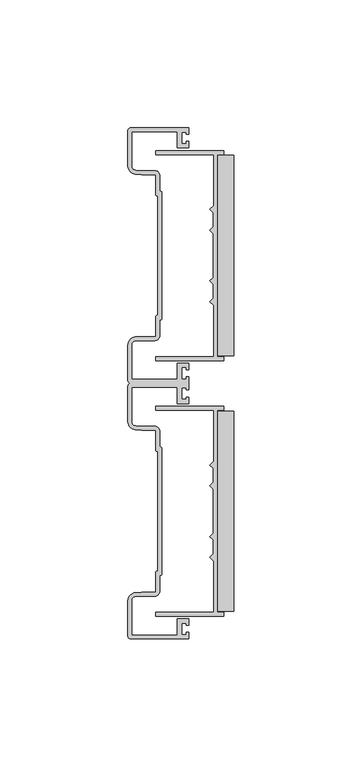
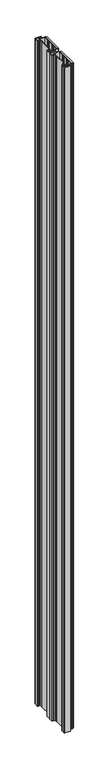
"""IFC4 building model written with IfcOpenShell, lengths in millimetres: proxy geometry, Connection-Teknion-FHCJW-Adjustable_Wal_Start-R2022 : Double Wall Starts."""

from ifc_helpers import new_model, si_unit, frame, origin, origin_with_axes, place, context, project, spatial, polyline, circle_curve, outline, extrude, faceted_brep, source, transform, mapped, element, save
from ifc_brep_helpers import plane_surface, cylinder_surface, revolved_surface, advanced_brep


def specialty_equipment_c0fda36b(model_context):
    return source(origin(), model_context, "Body", "SolidModel", [
        faceted_brep([(13.6393292, 91.0653535, 2743.2), (-13.0348006, 91.0653535, 2743.2), (-13.0348006, 89.5413459, 2743.2), (9.5712006, 89.5413459, 2743.2), (9.5712006, 69.5324019, 2743.2), (8.1107021, 68.0718984, 2743.2), (9.4442006, 66.7384, 2743.2), (9.4442006, 61.2774007, 2743.2), (8.1106995, 59.9438997, 2743.2), (9.4442006, 58.6103987, 2743.2), (9.4442006, 41.4021013, 2743.2), (8.1106995, 40.0686003, 2743.2), (9.4442006, 38.7350993, 2743.2), (9.4442006, 33.2741, 2743.2), (8.1107021, 31.9406016, 2743.2), (9.5712006, 30.4800981, 2743.2), (9.5712006, 10.4711541, 2743.2), (-13.0348006, 10.4711541, 2743.2), (-13.0348006, 8.9471465, 2743.2), (13.6393292, 8.9471465, 2743.2), (13.6393292, 10.4711541, 2743.2), (11.0952006, 10.4711541, 2743.2), (11.0952006, 89.5413459, 2743.2), (13.6393292, 89.5413459, 2743.2), (13.6393292, 91.0653535, 0.0), (13.6393292, 89.5413459, 0.0), (11.0952006, 89.5413459, 0.0), (11.0952006, 10.4711541, 0.0), (13.6393292, 10.4711541, 0.0), (13.6393292, 8.9471465, 0.0), (-13.0348006, 8.9471465, 0.0), (-13.0348006, 10.4711541, 0.0), (9.5712006, 10.4711541, 0.0), (9.5712006, 30.4800981, 0.0), (8.1107021, 31.9406016, 0.0), (9.4442006, 33.2741, 0.0), (9.4442006, 38.7350993, 0.0), (8.1106995, 40.0686003, 0.0), (9.4442006, 41.4021013, 0.0), (9.4442006, 58.6103987, 0.0), (8.1106995, 59.9438997, 0.0), (9.4442006, 61.2774007, 0.0), (9.4442006, 66.7384, 0.0), (8.1107021, 68.0718984, 0.0), (9.5712006, 69.5324019, 0.0), (9.5712006, 89.5413459, 0.0), (-13.0348006, 89.5413459, 0.0), (-13.0348006, 91.0653535, 0.0)], [[[0, 1, 2, 3, 4, 5, 6, 7, 8, 9, 10, 11, 12, 13, 14, 15, 16, 17, 18, 19, 20, 21, 22, 23]], [[24, 25, 26, 27, 28, 29, 30, 31, 32, 33, 34, 35, 36, 37, 38, 39, 40, 41, 42, 43, 44, 45, 46, 47]], [[23, 22, 26, 25]], [[0, 23, 25, 24]], [[1, 0, 24, 47]], [[2, 1, 47, 46]], [[3, 2, 46, 45]], [[4, 3, 45, 44]], [[5, 4, 44, 43]], [[6, 5, 43, 42]], [[7, 6, 42, 41]], [[8, 7, 41, 40]], [[9, 8, 40, 39]], [[10, 9, 39, 38]], [[11, 10, 38, 37]], [[12, 11, 37, 36]], [[13, 12, 36, 35]], [[14, 13, 35, 34]], [[15, 14, 34, 33]], [[16, 15, 33, 32]], [[17, 16, 32, 31]], [[18, 17, 31, 30]], [[19, 18, 30, 29]], [[20, 19, 29, 28]], [[21, 20, 28, 27]], [[22, 21, 27, 26]]]),
        advanced_brep(
        [(-22.7330004, 100.0125, 2743.2), (-24.0029992, 98.7425012, 2743.2), (-24.0029992, 85.0231533, 2743.2), (-20.9941667, 81.8524984, 2743.2), (-18.5165995, 81.7243994, 2743.2), (-13.0047993, 81.7243994, 2743.2), (-13.0047993, 73.8884996, 2743.2), (-12.2428, 73.5074999, 2743.2), (-12.2428, 26.5050001, 2743.2), (-13.0047993, 26.1240004, 2743.2), (-13.0047993, 18.2881006, 2743.2), (-18.5165995, 18.2881006, 2743.2), (-20.9941667, 18.1600016, 2743.2), (-24.0029992, 14.9893467, 2743.2), (-24.0029992, 1.2699988, 2743.2), (-22.7330004, 0.0, 2743.2), (-24.0029992, -1.2699988, 2743.2), (-24.0029992, -14.9893467, 2743.2), (-20.9941667, -18.1600016, 2743.2), (-18.5165995, -18.2881006, 2743.2), (-13.0047993, -18.2881006, 2743.2), (-13.0047993, -26.1240004, 2743.2), (-12.2428, -26.5050001, 2743.2), (-12.2428, -73.5074999, 2743.2), (-13.0047993, -73.8884996, 2743.2), (-13.0047993, -81.7243994, 2743.2), (-18.5165995, -81.7243994, 2743.2), (-20.9941667, -81.8524984, 2743.2), (-24.0029992, -85.0231533, 2743.2), (-24.0029992, -98.7425012, 2743.2), (-22.7330004, -100.0125, 2743.2), (-0.1904992, -100.0125, 2743.2), (-0.1904992, -97.4725024, 2743.2), (-1.1647474, -97.4725024, 2743.2), (-1.1647474, -98.3615016, 2743.2), (-2.9845, -98.3615016, 2743.2), (-2.9845, -93.7929699, 2743.2), (-1.1647474, -93.7929699, 2743.2), (-1.1647474, -94.681969, 2743.2), (-0.1904992, -94.681969, 2743.2), (-0.1904992, -92.1384984, 2743.2), (-4.6354995, -92.1384984, 2743.2), (-4.6354995, -98.4885015, 2743.2), (-22.4790007, -98.4885015, 2743.2), (-22.4790007, -85.0231437, 2743.2), (-20.9144069, -83.3744076, 2743.2), (-18.5099479, -83.2483979, 2743.2), (-13.3857989, -83.2483979, 2743.2), (-11.4807988, -81.3433978, 2743.2), (-11.4807985, -75.0314985, 2743.2), (-10.7187992, -74.6504988, 2743.2), (-10.7187992, -25.3620012, 2743.2), (-11.4807985, -24.9810015, 2743.2), (-11.4807985, -18.6691022, 2743.2), (-13.3857989, -16.7641021, 2743.2), (-18.5099479, -16.7641021, 2743.2), (-20.9144069, -16.6380924, 2743.2), (-22.4790007, -14.9893563, 2743.2), (-22.4790007, -1.5239985, 2743.2), (-4.6354995, -1.5239985, 2743.2), (-4.6354995, -7.8740016, 2743.2), (-0.1904992, -7.8740016, 2743.2), (-0.1904992, -5.330531, 2743.2), (-1.1647474, -5.330531, 2743.2), (-1.1647474, -6.2195301, 2743.2), (-2.9845, -6.2195301, 2743.2), (-2.9845, -1.6509984, 2743.2), (-1.1647474, -1.6509984, 2743.2), (-1.1647474, -2.5399976, 2743.2), (-0.1904992, -2.5399976, 2743.2), (-0.1904992, 2.5399976, 2743.2), (-1.1647474, 2.5399976, 2743.2), (-1.1647474, 1.6509984, 2743.2), (-2.9845, 1.6509984, 2743.2), (-2.9845, 6.2195301, 2743.2), (-1.1647474, 6.2195301, 2743.2), (-1.1647474, 5.330531, 2743.2), (-0.1904992, 5.330531, 2743.2), (-0.1904992, 7.8740016, 2743.2), (-4.6354995, 7.8740016, 2743.2), (-4.6354995, 1.5239985, 2743.2), (-22.4790007, 1.5239985, 2743.2), (-22.4790007, 14.9893563, 2743.2), (-20.9144069, 16.6380924, 2743.2), (-18.5099479, 16.7641021, 2743.2), (-13.3857989, 16.7641021, 2743.2), (-11.4807988, 18.6691022, 2743.2), (-11.4807985, 24.9810015, 2743.2), (-10.7187992, 25.3620012, 2743.2), (-10.7187992, 74.6504988, 2743.2), (-11.4807985, 75.0314985, 2743.2), (-11.4807985, 81.3433978, 2743.2), (-13.3857989, 83.2483979, 2743.2), (-18.5099479, 83.2483979, 2743.2), (-20.9144069, 83.3744076, 2743.2), (-22.4790007, 85.0231437, 2743.2), (-22.4790007, 98.4885015, 2743.2), (-4.6354995, 98.4885015, 2743.2), (-4.6354995, 92.1384984, 2743.2), (-0.1904992, 92.1384984, 2743.2), (-0.1904992, 94.681969, 2743.2), (-1.1647474, 94.681969, 2743.2), (-1.1647474, 93.7929699, 2743.2), (-2.9845, 93.7929699, 2743.2), (-2.9845, 98.3615016, 2743.2), (-1.1647474, 98.3615016, 2743.2), (-1.1647474, 97.4725024, 2743.2), (-0.1904992, 97.4725024, 2743.2), (-0.1904992, 100.0125, 2743.2), (-22.7330004, 100.0125, 0.0), (-0.1904992, 100.0125, 0.0), (-0.1904992, 97.4725024, 0.0), (-1.1647474, 97.4725024, 0.0), (-1.1647474, 98.3615016, 0.0), (-2.9845, 98.3615016, 0.0), (-2.9845, 93.7929699, 0.0), (-1.1647474, 93.7929699, 0.0), (-1.1647474, 94.681969, 0.0), (-0.1904992, 94.681969, 0.0), (-0.1904992, 92.1384984, 0.0), (-4.6354995, 92.1384984, 0.0), (-4.6354995, 98.4885015, 0.0), (-22.4790007, 98.4885015, 0.0), (-22.4790007, 85.0231437, 0.0), (-20.9144069, 83.3744076, 0.0), (-18.5099479, 83.2483979, 0.0), (-13.3857989, 83.2483979, 0.0), (-11.4807988, 81.3433978, 0.0), (-11.4807985, 75.0314985, 0.0), (-10.7187992, 74.6504988, 0.0), (-10.7187992, 25.3620012, 0.0), (-11.4807985, 24.9810015, 0.0), (-11.4807985, 18.6691022, 0.0), (-13.3857989, 16.7641021, 0.0), (-18.5099479, 16.7641021, 0.0), (-20.9144069, 16.6380924, 0.0), (-22.4790007, 14.9893563, 0.0), (-22.4790007, 1.5239985, 0.0), (-4.6354995, 1.5239985, 0.0), (-4.6354995, 7.8740016, 0.0), (-0.1904992, 7.8740016, 0.0), (-0.1904992, 5.330531, 0.0), (-1.1647474, 5.330531, 0.0), (-1.1647474, 6.2195301, 0.0), (-2.9845, 6.2195301, 0.0), (-2.9845, 1.6509984, 0.0), (-1.1647474, 1.6509984, 0.0), (-1.1647474, 2.5399976, 0.0), (-0.1904992, 2.5399976, 0.0), (-0.1904992, -2.5399976, 0.0), (-1.1647474, -2.5399976, 0.0), (-1.1647474, -1.6509984, 0.0), (-2.9845, -1.6509984, 0.0), (-2.9845, -6.2195301, 0.0), (-1.1647474, -6.2195301, 0.0), (-1.1647474, -5.330531, 0.0), (-0.1904992, -5.330531, 0.0), (-0.1904992, -7.8740016, 0.0), (-4.6354995, -7.8740016, 0.0), (-4.6354995, -1.5239985, 0.0), (-22.4790007, -1.5239985, 0.0), (-22.4790007, -14.9893563, 0.0), (-20.9144069, -16.6380924, 0.0), (-18.5099479, -16.7641021, 0.0), (-13.3857989, -16.7641021, 0.0), (-11.4807988, -18.6691022, 0.0), (-11.4807985, -24.9810015, 0.0), (-10.7187992, -25.3620012, 0.0), (-10.7187992, -74.6504988, 0.0), (-11.4807985, -75.0314985, 0.0), (-11.4807985, -81.3433978, 0.0), (-13.3857989, -83.2483979, 0.0), (-18.5099479, -83.2483979, 0.0), (-20.9144069, -83.3744076, 0.0), (-22.4790007, -85.0231437, 0.0), (-22.4790007, -98.4885015, 0.0), (-4.6354995, -98.4885015, 0.0), (-4.6354995, -92.1384984, 0.0), (-0.1904992, -92.1384984, 0.0), (-0.1904992, -94.681969, 0.0), (-1.1647474, -94.681969, 0.0), (-1.1647474, -93.7929699, 0.0), (-2.9845, -93.7929699, 0.0), (-2.9845, -98.3615016, 0.0), (-1.1647474, -98.3615016, 0.0), (-1.1647474, -97.4725024, 0.0), (-0.1904992, -97.4725024, 0.0), (-0.1904992, -100.0125, 0.0), (-22.7330004, -100.0125, 0.0), (-24.0029992, -98.7425012, 0.0), (-24.0029992, -85.0231533, 0.0), (-20.9941667, -81.8524984, 0.0), (-18.5165995, -81.7243994, 0.0), (-13.0047993, -81.7243994, 0.0), (-13.0047993, -73.8884996, 0.0), (-12.2428, -73.5074999, 0.0), (-12.2428, -26.5050001, 0.0), (-13.0047993, -26.1240004, 0.0), (-13.0047993, -18.2881006, 0.0), (-18.5165995, -18.2881006, 0.0), (-20.9941667, -18.1600016, 0.0), (-24.0029992, -14.9893467, 0.0), (-24.0029992, -1.2699988, 0.0), (-22.7330004, 0.0, 0.0), (-24.0029992, 1.2699988, 0.0), (-24.0029992, 14.9893467, 0.0), (-20.9941667, 18.1600016, 0.0), (-18.5165995, 18.2881006, 0.0), (-13.0047993, 18.2881006, 0.0), (-13.0047993, 26.1240004, 0.0), (-12.2428, 26.5050001, 0.0), (-12.2428, 73.5074999, 0.0), (-13.0047993, 73.8884996, 0.0), (-13.0047993, 81.7243994, 0.0), (-18.5165995, 81.7243994, 0.0), (-20.9941667, 81.8524984, 0.0), (-24.0029992, 85.0231533, 0.0), (-24.0029992, 98.7425012, 0.0)],
        [
            (0, 1, circle_curve(frame((-22.7330004, 98.7425012, 2743.2), z_axis=(0.0, 0.0, 1.0), x_axis=(0.0, -1.0, 0.0)), 1.2699988)),
            (1, 2),
            (2, 3, circle_curve(frame((-20.721501, 85.12421, 2743.2), z_axis=(0.0, 0.0, 1.0), x_axis=(0.0, -1.0, 0.0)), 3.283054)),
            (3, 4),
            (4, 5),
            (5, 6),
            (6, 7, circle_curve(frame((-12.5285497, 73.8884996, 2743.2), z_axis=(0.0, 0.0, 1.0), x_axis=(0.0, -1.0, 0.0)), 0.4762495)),
            (7, 8),
            (8, 9, circle_curve(frame((-12.5285497, 26.1240004, 2743.2), z_axis=(0.0, 0.0, 1.0), x_axis=(0.0, -1.0, 0.0)), 0.4762495)),
            (9, 10),
            (10, 11),
            (11, 12),
            (12, 13, circle_curve(frame((-20.721501, 14.88829, 2743.2), z_axis=(0.0, 0.0, 1.0), x_axis=(0.0, -1.0, 0.0)), 3.283054)),
            (13, 14),
            (14, 15, circle_curve(frame((-22.7330004, 1.2699988, 2743.2), z_axis=(0.0, 0.0, 1.0), x_axis=(0.0, -1.0, 0.0)), 1.2699988)),
            (15, 16, circle_curve(frame((-22.7330004, -1.2699988, 2743.2), z_axis=(0.0, 0.0, 1.0), x_axis=(0.0, -1.0, 0.0)), 1.2699988)),
            (16, 17),
            (17, 18, circle_curve(frame((-20.721501, -14.88829, 2743.2), z_axis=(0.0, 0.0, 1.0), x_axis=(0.0, -1.0, 0.0)), 3.283054)),
            (18, 19),
            (19, 20),
            (20, 21),
            (21, 22, circle_curve(frame((-12.5285497, -26.1240004, 2743.2), z_axis=(0.0, 0.0, 1.0), x_axis=(0.0, -1.0, 0.0)), 0.4762495)),
            (22, 23),
            (23, 24, circle_curve(frame((-12.5285497, -73.8884996, 2743.2), z_axis=(0.0, 0.0, 1.0), x_axis=(0.0, -1.0, 0.0)), 0.4762495)),
            (24, 25),
            (25, 26),
            (26, 27),
            (27, 28, circle_curve(frame((-20.721501, -85.12421, 2743.2), z_axis=(0.0, 0.0, 1.0), x_axis=(0.0, -1.0, 0.0)), 3.283054)),
            (28, 29),
            (29, 30, circle_curve(frame((-22.7330004, -98.7425012, 2743.2), z_axis=(0.0, 0.0, 1.0), x_axis=(0.0, -1.0, 0.0)), 1.2699988)),
            (30, 31),
            (31, 32),
            (32, 33),
            (33, 34),
            (34, 35),
            (35, 36),
            (36, 37),
            (37, 38),
            (38, 39),
            (39, 40),
            (40, 41),
            (41, 42),
            (42, 43),
            (43, 44),
            (44, 45, circle_curve(frame((-20.8280021, -85.0231437, 2743.2), z_axis=(0.0, 0.0, -1.0), x_axis=(0.0, -1.0, 0.0)), 1.6509986)),
            (45, 46),
            (46, 47),
            (47, 48, circle_curve(frame((-13.3857989, -81.3433978, 2743.2), z_axis=(0.0, 0.0, 1.0), x_axis=(0.0, -1.0, 0.0)), 1.9050001)),
            (48, 49),
            (49, 50, circle_curve(frame((-11.1950487, -74.6504988, 2743.2), z_axis=(0.0, 0.0, 1.0), x_axis=(0.0, -1.0, 0.0)), 0.4762495)),
            (50, 51),
            (51, 52, circle_curve(frame((-11.1950487, -25.3620012, 2743.2), z_axis=(0.0, 0.0, 1.0), x_axis=(0.0, -1.0, 0.0)), 0.4762495)),
            (52, 53),
            (53, 54, circle_curve(frame((-13.3857989, -18.6691022, 2743.2), z_axis=(0.0, 0.0, 1.0), x_axis=(0.0, -1.0, 0.0)), 1.9050001)),
            (54, 55),
            (55, 56),
            (56, 57, circle_curve(frame((-20.8280021, -14.9893563, 2743.2), z_axis=(0.0, 0.0, -1.0), x_axis=(0.0, -1.0, 0.0)), 1.6509986)),
            (57, 58),
            (58, 59),
            (59, 60),
            (60, 61),
            (61, 62),
            (62, 63),
            (63, 64),
            (64, 65),
            (65, 66),
            (66, 67),
            (67, 68),
            (68, 69),
            (69, 70),
            (70, 71),
            (71, 72),
            (72, 73),
            (73, 74),
            (74, 75),
            (75, 76),
            (76, 77),
            (77, 78),
            (78, 79),
            (79, 80),
            (80, 81),
            (81, 82),
            (82, 83, circle_curve(frame((-20.8280021, 14.9893563, 2743.2), z_axis=(0.0, 0.0, -1.0), x_axis=(0.0, -1.0, 0.0)), 1.6509986)),
            (83, 84),
            (84, 85),
            (85, 86, circle_curve(frame((-13.3857989, 18.6691022, 2743.2), z_axis=(0.0, 0.0, 1.0), x_axis=(0.0, -1.0, 0.0)), 1.9050001)),
            (86, 87),
            (87, 88, circle_curve(frame((-11.1950487, 25.3620012, 2743.2), z_axis=(0.0, 0.0, 1.0), x_axis=(0.0, -1.0, 0.0)), 0.4762495)),
            (88, 89),
            (89, 90, circle_curve(frame((-11.1950487, 74.6504988, 2743.2), z_axis=(0.0, 0.0, 1.0), x_axis=(0.0, -1.0, 0.0)), 0.4762495)),
            (90, 91),
            (91, 92, circle_curve(frame((-13.3857989, 81.3433978, 2743.2), z_axis=(0.0, 0.0, 1.0), x_axis=(0.0, -1.0, 0.0)), 1.9050001)),
            (92, 93),
            (93, 94),
            (94, 95, circle_curve(frame((-20.8280021, 85.0231437, 2743.2), z_axis=(0.0, 0.0, -1.0), x_axis=(0.0, -1.0, 0.0)), 1.6509986)),
            (95, 96),
            (96, 97),
            (97, 98),
            (98, 99),
            (99, 100),
            (100, 101),
            (101, 102),
            (102, 103),
            (103, 104),
            (104, 105),
            (105, 106),
            (106, 107),
            (107, 108),
            (108, 0),
            (109, 110),
            (110, 111),
            (111, 112),
            (112, 113),
            (113, 114),
            (114, 115),
            (115, 116),
            (116, 117),
            (117, 118),
            (118, 119),
            (119, 120),
            (120, 121),
            (121, 122),
            (122, 123),
            (123, 124, circle_curve(frame((-20.8280021, 85.0231437, 0.0), z_axis=(0.0, 0.0, 1.0), x_axis=(0.0, -1.0, 0.0)), 1.6509986)),
            (124, 125),
            (125, 126),
            (126, 127, circle_curve(frame((-13.3857989, 81.3433978, 0.0), z_axis=(0.0, 0.0, -1.0), x_axis=(0.0, -1.0, 0.0)), 1.9050001)),
            (127, 128),
            (128, 129, circle_curve(frame((-11.1950487, 74.6504988, 0.0), z_axis=(0.0, 0.0, -1.0), x_axis=(0.0, -1.0, 0.0)), 0.4762495)),
            (129, 130),
            (130, 131, circle_curve(frame((-11.1950487, 25.3620012, 0.0), z_axis=(0.0, 0.0, -1.0), x_axis=(0.0, -1.0, 0.0)), 0.4762495)),
            (131, 132),
            (132, 133, circle_curve(frame((-13.3857989, 18.6691022, 0.0), z_axis=(0.0, 0.0, -1.0), x_axis=(0.0, -1.0, 0.0)), 1.9050001)),
            (133, 134),
            (134, 135),
            (135, 136, circle_curve(frame((-20.8280021, 14.9893563, 0.0), z_axis=(0.0, 0.0, 1.0), x_axis=(0.0, -1.0, 0.0)), 1.6509986)),
            (136, 137),
            (137, 138),
            (138, 139),
            (139, 140),
            (140, 141),
            (141, 142),
            (142, 143),
            (143, 144),
            (144, 145),
            (145, 146),
            (146, 147),
            (147, 148),
            (148, 149),
            (149, 150),
            (150, 151),
            (151, 152),
            (152, 153),
            (153, 154),
            (154, 155),
            (155, 156),
            (156, 157),
            (157, 158),
            (158, 159),
            (159, 160),
            (160, 161),
            (161, 162, circle_curve(frame((-20.8280021, -14.9893563, 0.0), z_axis=(0.0, 0.0, 1.0), x_axis=(0.0, -1.0, 0.0)), 1.6509986)),
            (162, 163),
            (163, 164),
            (164, 165, circle_curve(frame((-13.3857989, -18.6691022, 0.0), z_axis=(0.0, 0.0, -1.0), x_axis=(0.0, -1.0, 0.0)), 1.9050001)),
            (165, 166),
            (166, 167, circle_curve(frame((-11.1950487, -25.3620012, 0.0), z_axis=(0.0, 0.0, -1.0), x_axis=(0.0, -1.0, 0.0)), 0.4762495)),
            (167, 168),
            (168, 169, circle_curve(frame((-11.1950487, -74.6504988, 0.0), z_axis=(0.0, 0.0, -1.0), x_axis=(0.0, -1.0, 0.0)), 0.4762495)),
            (169, 170),
            (170, 171, circle_curve(frame((-13.3857989, -81.3433978, 0.0), z_axis=(0.0, 0.0, -1.0), x_axis=(0.0, -1.0, 0.0)), 1.9050001)),
            (171, 172),
            (172, 173),
            (173, 174, circle_curve(frame((-20.8280021, -85.0231437, 0.0), z_axis=(0.0, 0.0, 1.0), x_axis=(0.0, -1.0, 0.0)), 1.6509986)),
            (174, 175),
            (175, 176),
            (176, 177),
            (177, 178),
            (178, 179),
            (179, 180),
            (180, 181),
            (181, 182),
            (182, 183),
            (183, 184),
            (184, 185),
            (185, 186),
            (186, 187),
            (187, 188),
            (188, 189, circle_curve(frame((-22.7330004, -98.7425012, 0.0), z_axis=(0.0, 0.0, -1.0), x_axis=(0.0, -1.0, 0.0)), 1.2699988)),
            (189, 190),
            (190, 191, circle_curve(frame((-20.721501, -85.12421, 0.0), z_axis=(0.0, 0.0, -1.0), x_axis=(0.0, -1.0, 0.0)), 3.283054)),
            (191, 192),
            (192, 193),
            (193, 194),
            (194, 195, circle_curve(frame((-12.5285497, -73.8884996, 0.0), z_axis=(0.0, 0.0, -1.0), x_axis=(0.0, -1.0, 0.0)), 0.4762495)),
            (195, 196),
            (196, 197, circle_curve(frame((-12.5285497, -26.1240004, 0.0), z_axis=(0.0, 0.0, -1.0), x_axis=(0.0, -1.0, 0.0)), 0.4762495)),
            (197, 198),
            (198, 199),
            (199, 200),
            (200, 201, circle_curve(frame((-20.721501, -14.88829, 0.0), z_axis=(0.0, 0.0, -1.0), x_axis=(0.0, -1.0, 0.0)), 3.283054)),
            (201, 202),
            (202, 203, circle_curve(frame((-22.7330004, -1.2699988, 0.0), z_axis=(0.0, 0.0, -1.0), x_axis=(0.0, -1.0, 0.0)), 1.2699988)),
            (203, 204, circle_curve(frame((-22.7330004, 1.2699988, 0.0), z_axis=(0.0, 0.0, -1.0), x_axis=(0.0, -1.0, 0.0)), 1.2699988)),
            (204, 205),
            (205, 206, circle_curve(frame((-20.721501, 14.88829, 0.0), z_axis=(0.0, 0.0, -1.0), x_axis=(0.0, -1.0, 0.0)), 3.283054)),
            (206, 207),
            (207, 208),
            (208, 209),
            (209, 210, circle_curve(frame((-12.5285497, 26.1240004, 0.0), z_axis=(0.0, 0.0, -1.0), x_axis=(0.0, -1.0, 0.0)), 0.4762495)),
            (210, 211),
            (211, 212, circle_curve(frame((-12.5285497, 73.8884996, 0.0), z_axis=(0.0, 0.0, -1.0), x_axis=(0.0, -1.0, 0.0)), 0.4762495)),
            (212, 213),
            (213, 214),
            (214, 215),
            (215, 216, circle_curve(frame((-20.721501, 85.12421, 0.0), z_axis=(0.0, 0.0, -1.0), x_axis=(0.0, -1.0, 0.0)), 3.283054)),
            (216, 217),
            (217, 109, circle_curve(frame((-22.7330004, 98.7425012, 0.0), z_axis=(0.0, 0.0, -1.0), x_axis=(0.0, -1.0, 0.0)), 1.2699988)),
            (1, 217),
            (216, 2),
            (108, 110),
            (109, 0),
            (215, 3),
            (214, 4),
            (213, 5),
            (212, 6),
            (211, 7),
            (210, 8),
            (209, 9),
            (208, 10),
            (207, 11),
            (206, 12),
            (205, 13),
            (204, 14),
            (203, 15),
            (69, 149),
            (148, 70),
            (147, 71),
            (146, 72),
            (145, 73),
            (144, 74),
            (143, 75),
            (142, 76),
            (141, 77),
            (140, 78),
            (139, 79),
            (138, 80),
            (137, 81),
            (136, 82),
            (135, 83),
            (134, 84),
            (133, 85),
            (132, 86),
            (131, 87),
            (130, 88),
            (129, 89),
            (128, 90),
            (127, 91),
            (126, 92),
            (125, 93),
            (124, 94),
            (123, 95),
            (122, 96),
            (121, 97),
            (120, 98),
            (119, 99),
            (118, 100),
            (117, 101),
            (116, 102),
            (115, 103),
            (114, 104),
            (113, 105),
            (112, 106),
            (111, 107),
            (202, 16),
            (201, 17),
            (200, 18),
            (199, 19),
            (198, 20),
            (197, 21),
            (196, 22),
            (195, 23),
            (194, 24),
            (193, 25),
            (192, 26),
            (191, 27),
            (190, 28),
            (189, 29),
            (188, 30),
            (187, 31),
            (186, 32),
            (185, 33),
            (184, 34),
            (183, 35),
            (182, 36),
            (181, 37),
            (180, 38),
            (179, 39),
            (178, 40),
            (177, 41),
            (176, 42),
            (175, 43),
            (174, 44),
            (173, 45),
            (172, 46),
            (171, 47),
            (170, 48),
            (169, 49),
            (168, 50),
            (167, 51),
            (166, 52),
            (165, 53),
            (164, 54),
            (163, 55),
            (162, 56),
            (161, 57),
            (160, 58),
            (159, 59),
            (158, 60),
            (157, 61),
            (156, 62),
            (155, 63),
            (154, 64),
            (153, 65),
            (152, 66),
            (151, 67),
            (150, 68),
        ],
        [
            plane_surface(frame((0.0, 50.00625, 2743.2), z_axis=(0.0, 0.0, 1.0), x_axis=(0.0, -1.0, 0.0))),
            plane_surface(frame((0.0, 50.00625, 0.0), z_axis=(0.0, 0.0, -1.0), x_axis=(0.0, -1.0, 0.0))),
            plane_surface(frame((-24.0029992, 98.7425012, 2743.2), z_axis=(-1.0, 0.0, 0.0), x_axis=(0.0, 0.0, -1.0))),
            plane_surface(frame((-0.1904992, 100.0125, 2743.2), z_axis=(0.0, 1.0, 0.0), x_axis=(0.0, 0.0, -1.0))),
            cylinder_surface(frame((-22.7330004, 98.7425012, 2743.2), z_axis=(0.0, 0.0, 1.0), x_axis=(0.0, -1.0, 0.0)), 1.2699988),
            cylinder_surface(frame((-20.721501, 85.12421, 2743.2), z_axis=(0.0, 0.0, 1.0), x_axis=(0.0, -1.0, 0.0)), 3.283054),
            plane_surface(frame((-20.9941667, 81.8524984, 2743.2), z_axis=(-0.05163457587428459, -0.9986660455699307, 0.0), x_axis=(0.0, 0.0, -1.0))),
            plane_surface(frame((-18.5165995, 81.7243994, 2743.2), z_axis=(0.0, -1.0, 0.0), x_axis=(0.0, 0.0, -1.0))),
            plane_surface(frame((-13.0047993, 81.7243994, 2743.2), z_axis=(-1.0, 0.0, 0.0), x_axis=(0.0, 0.0, -1.0))),
            cylinder_surface(frame((-12.5285497, 73.8884996, 2743.2), z_axis=(0.0, 0.0, 1.0), x_axis=(0.0, -1.0, 0.0)), 0.4762495),
            plane_surface(frame((-12.2428, 73.5074999, 2743.2), z_axis=(-1.0, 0.0, 0.0), x_axis=(0.0, 0.0, -1.0))),
            cylinder_surface(frame((-12.5285497, 26.1240004, 2743.2), z_axis=(0.0, 0.0, 1.0), x_axis=(0.0, -1.0, 0.0)), 0.4762495),
            plane_surface(frame((-13.0047993, 26.1240004, 2743.2), z_axis=(-1.0, 0.0, 0.0), x_axis=(0.0, 0.0, -1.0))),
            plane_surface(frame((-13.0047993, 18.2881006, 2743.2), z_axis=(0.0, 1.0, 0.0), x_axis=(0.0, 0.0, -1.0))),
            plane_surface(frame((-18.5165995, 18.2881006, 2743.2), z_axis=(-0.05163457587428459, 0.9986660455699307, 0.0), x_axis=(0.0, 0.0, -1.0))),
            cylinder_surface(frame((-20.721501, 14.88829, 2743.2), z_axis=(0.0, 0.0, 1.0), x_axis=(0.0, -1.0, 0.0)), 3.283054),
            plane_surface(frame((-24.0029992, 14.9893467, 2743.2), z_axis=(-1.0, 0.0, 0.0), x_axis=(0.0, 0.0, -1.0))),
            cylinder_surface(frame((-22.7330004, 1.2699988, 2743.2), z_axis=(0.0, 0.0, 1.0), x_axis=(0.0, -1.0, 0.0)), 1.2699988),
            plane_surface(frame((-0.1904992, 0.0, 2743.2), z_axis=(1.0, 0.0, 0.0), x_axis=(0.0, 0.0, -1.0))),
            plane_surface(frame((-0.1904992, 2.5399976, 2743.2), z_axis=(0.0, 1.0, 0.0), x_axis=(0.0, 0.0, -1.0))),
            plane_surface(frame((-1.1647474, 2.5399976, 2743.2), z_axis=(-1.0, 0.0, 0.0), x_axis=(0.0, 0.0, -1.0))),
            plane_surface(frame((-1.1647474, 1.6509984, 2743.2), z_axis=(0.0, 1.0, 0.0), x_axis=(0.0, 0.0, -1.0))),
            plane_surface(frame((-2.9845, 1.6509984, 2743.2), z_axis=(1.0, 0.0, 0.0), x_axis=(0.0, 0.0, -1.0))),
            plane_surface(frame((-2.9845, 6.2195301, 2743.2), z_axis=(0.0, -1.0, 0.0), x_axis=(0.0, 0.0, -1.0))),
            plane_surface(frame((-1.1647474, 6.2195301, 2743.2), z_axis=(-1.0, 0.0, 0.0), x_axis=(0.0, 0.0, -1.0))),
            plane_surface(frame((-1.1647474, 5.330531, 2743.2), z_axis=(0.0, -1.0, 0.0), x_axis=(0.0, 0.0, -1.0))),
            plane_surface(frame((-0.1904992, 5.330531, 2743.2), z_axis=(1.0, 0.0, 0.0), x_axis=(0.0, 0.0, -1.0))),
            plane_surface(frame((-0.1904992, 7.8740016, 2743.2), z_axis=(0.0, 1.0, 0.0), x_axis=(0.0, 0.0, -1.0))),
            plane_surface(frame((-4.6354995, 7.8740016, 2743.2), z_axis=(-1.0, 0.0, 0.0), x_axis=(0.0, 0.0, -1.0))),
            plane_surface(frame((-4.6354995, 1.5239985, 2743.2), z_axis=(0.0, 1.0, 0.0), x_axis=(0.0, 0.0, -1.0))),
            plane_surface(frame((-22.4790007, 1.5239985, 2743.2), z_axis=(1.0, 0.0, 0.0), x_axis=(0.0, 0.0, -1.0))),
            revolved_surface(polyline([(-20.8280021, 13.338357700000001, 0.0), (-20.8280021, 13.338357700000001, 2743.2)]), (-20.8280021, 14.9893563, 2743.2), (0.0, 0.0, -1.0)),
            plane_surface(frame((-20.9144069, 16.6380924, 2743.2), z_axis=(0.0523348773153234, -0.9986295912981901, 0.0), x_axis=(0.0, 0.0, -1.0))),
            plane_surface(frame((-18.5099479, 16.7641021, 2743.2), z_axis=(0.0, -1.0, 0.0), x_axis=(0.0, 0.0, -1.0))),
            cylinder_surface(frame((-13.3857989, 18.6691022, 2743.2), z_axis=(0.0, 0.0, 1.0), x_axis=(0.0, -1.0, 0.0)), 1.9050001),
            plane_surface(frame((-11.4807985, 18.6691022, 2743.2), z_axis=(1.0, 0.0, 0.0), x_axis=(0.0, 0.0, -1.0))),
            cylinder_surface(frame((-11.1950487, 25.3620012, 2743.2), z_axis=(0.0, 0.0, 1.0), x_axis=(0.0, -1.0, 0.0)), 0.4762495),
            plane_surface(frame((-10.7187992, 25.3620012, 2743.2), z_axis=(1.0, 0.0, 0.0), x_axis=(0.0, 0.0, -1.0))),
            cylinder_surface(frame((-11.1950487, 74.6504988, 2743.2), z_axis=(0.0, 0.0, 1.0), x_axis=(0.0, -1.0, 0.0)), 0.4762495),
            plane_surface(frame((-11.4807985, 75.0314985, 2743.2), z_axis=(1.0, 0.0, 0.0), x_axis=(0.0, 0.0, -1.0))),
            cylinder_surface(frame((-13.3857989, 81.3433978, 2743.2), z_axis=(0.0, 0.0, 1.0), x_axis=(0.0, -1.0, 0.0)), 1.9050001),
            plane_surface(frame((-13.3857989, 83.2483979, 2743.2), z_axis=(0.0, 1.0, 0.0), x_axis=(0.0, 0.0, -1.0))),
            plane_surface(frame((-18.5099479, 83.2483979, 2743.2), z_axis=(0.0523348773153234, 0.9986295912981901, 0.0), x_axis=(0.0, 0.0, -1.0))),
            revolved_surface(polyline([(-20.8280021, 83.37214510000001, 0.0), (-20.8280021, 83.37214510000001, 2743.2)]), (-20.8280021, 85.0231437, 2743.2), (0.0, 0.0, -1.0)),
            plane_surface(frame((-22.4790007, 85.0231437, 2743.2), z_axis=(1.0, 0.0, 0.0), x_axis=(0.0, 0.0, -1.0))),
            plane_surface(frame((-22.4790007, 98.4885015, 2743.2), z_axis=(0.0, -1.0, 0.0), x_axis=(0.0, 0.0, -1.0))),
            plane_surface(frame((-4.6354995, 98.4885015, 2743.2), z_axis=(-1.0, 0.0, 0.0), x_axis=(0.0, 0.0, -1.0))),
            plane_surface(frame((-4.6354995, 92.1384984, 2743.2), z_axis=(0.0, -1.0, 0.0), x_axis=(0.0, 0.0, -1.0))),
            plane_surface(frame((-0.1904992, 92.1384984, 2743.2), z_axis=(1.0, 0.0, 0.0), x_axis=(0.0, 0.0, -1.0))),
            plane_surface(frame((-0.1904992, 94.681969, 2743.2), z_axis=(0.0, 1.0, 0.0), x_axis=(0.0, 0.0, -1.0))),
            plane_surface(frame((-1.1647474, 94.681969, 2743.2), z_axis=(-1.0, 0.0, 0.0), x_axis=(0.0, 0.0, -1.0))),
            plane_surface(frame((-1.1647474, 93.7929699, 2743.2), z_axis=(0.0, 1.0, 0.0), x_axis=(0.0, 0.0, -1.0))),
            plane_surface(frame((-2.9845, 93.7929699, 2743.2), z_axis=(1.0, 0.0, 0.0), x_axis=(0.0, 0.0, -1.0))),
            plane_surface(frame((-2.9845, 98.3615016, 2743.2), z_axis=(0.0, -1.0, 0.0), x_axis=(0.0, 0.0, -1.0))),
            plane_surface(frame((-1.1647474, 98.3615016, 2743.2), z_axis=(-1.0, 0.0, 0.0), x_axis=(0.0, 0.0, -1.0))),
            plane_surface(frame((-1.1647474, 97.4725024, 2743.2), z_axis=(0.0, -1.0, 0.0), x_axis=(0.0, 0.0, -1.0))),
            plane_surface(frame((-0.1904992, 97.4725024, 2743.2), z_axis=(1.0, 0.0, 0.0), x_axis=(0.0, 0.0, -1.0))),
            cylinder_surface(frame((-22.7330004, -1.2699988, 2743.2), z_axis=(0.0, 0.0, 1.0), x_axis=(0.0, -1.0, 0.0)), 1.2699988),
            plane_surface(frame((-24.0029992, -1.2699988, 2743.2), z_axis=(-1.0, 0.0, 0.0), x_axis=(0.0, 0.0, -1.0))),
            cylinder_surface(frame((-20.721501, -14.88829, 2743.2), z_axis=(0.0, 0.0, 1.0), x_axis=(0.0, -1.0, 0.0)), 3.283054),
            plane_surface(frame((-20.9941667, -18.1600016, 2743.2), z_axis=(-0.05163457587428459, -0.9986660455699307, 0.0), x_axis=(0.0, 0.0, -1.0))),
            plane_surface(frame((-18.5165995, -18.2881006, 2743.2), z_axis=(0.0, -1.0, 0.0), x_axis=(0.0, 0.0, -1.0))),
            plane_surface(frame((-13.0047993, -18.2881006, 2743.2), z_axis=(-1.0, 0.0, 0.0), x_axis=(0.0, 0.0, -1.0))),
            cylinder_surface(frame((-12.5285497, -26.1240004, 2743.2), z_axis=(0.0, 0.0, 1.0), x_axis=(0.0, -1.0, 0.0)), 0.4762495),
            plane_surface(frame((-12.2428, -26.5050001, 2743.2), z_axis=(-1.0, 0.0, 0.0), x_axis=(0.0, 0.0, -1.0))),
            cylinder_surface(frame((-12.5285497, -73.8884996, 2743.2), z_axis=(0.0, 0.0, 1.0), x_axis=(0.0, -1.0, 0.0)), 0.4762495),
            plane_surface(frame((-13.0047993, -73.8884996, 2743.2), z_axis=(-1.0, 0.0, 0.0), x_axis=(0.0, 0.0, -1.0))),
            plane_surface(frame((-13.0047993, -81.7243994, 2743.2), z_axis=(0.0, 1.0, 0.0), x_axis=(0.0, 0.0, -1.0))),
            plane_surface(frame((-18.5165995, -81.7243994, 2743.2), z_axis=(-0.05163457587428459, 0.9986660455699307, 0.0), x_axis=(0.0, 0.0, -1.0))),
            cylinder_surface(frame((-20.721501, -85.12421, 2743.2), z_axis=(0.0, 0.0, 1.0), x_axis=(0.0, -1.0, 0.0)), 3.283054),
            plane_surface(frame((-24.0029992, -85.0231533, 2743.2), z_axis=(-1.0, 0.0, 0.0), x_axis=(0.0, 0.0, -1.0))),
            cylinder_surface(frame((-22.7330004, -98.7425012, 2743.2), z_axis=(0.0, 0.0, 1.0), x_axis=(0.0, -1.0, 0.0)), 1.2699988),
            plane_surface(frame((-22.7330004, -100.0125, 2743.2), z_axis=(0.0, -1.0, 0.0), x_axis=(0.0, 0.0, -1.0))),
            plane_surface(frame((-0.1904992, -100.0125, 2743.2), z_axis=(1.0, 0.0, 0.0), x_axis=(0.0, 0.0, -1.0))),
            plane_surface(frame((-0.1904992, -97.4725024, 2743.2), z_axis=(0.0, 1.0, 0.0), x_axis=(0.0, 0.0, -1.0))),
            plane_surface(frame((-1.1647474, -97.4725024, 2743.2), z_axis=(-1.0, 0.0, 0.0), x_axis=(0.0, 0.0, -1.0))),
            plane_surface(frame((-1.1647474, -98.3615016, 2743.2), z_axis=(0.0, 1.0, 0.0), x_axis=(0.0, 0.0, -1.0))),
            plane_surface(frame((-2.9845, -98.3615016, 2743.2), z_axis=(1.0, 0.0, 0.0), x_axis=(0.0, 0.0, -1.0))),
            plane_surface(frame((-2.9845, -93.7929699, 2743.2), z_axis=(0.0, -1.0, 0.0), x_axis=(0.0, 0.0, -1.0))),
            plane_surface(frame((-1.1647474, -93.7929699, 2743.2), z_axis=(-1.0, 0.0, 0.0), x_axis=(0.0, 0.0, -1.0))),
            plane_surface(frame((-1.1647474, -94.681969, 2743.2), z_axis=(0.0, -1.0, 0.0), x_axis=(0.0, 0.0, -1.0))),
            plane_surface(frame((-0.1904992, -94.681969, 2743.2), z_axis=(1.0, 0.0, 0.0), x_axis=(0.0, 0.0, -1.0))),
            plane_surface(frame((-0.1904992, -92.1384984, 2743.2), z_axis=(0.0, 1.0, 0.0), x_axis=(0.0, 0.0, -1.0))),
            plane_surface(frame((-4.6354995, -92.1384984, 2743.2), z_axis=(-1.0, 0.0, 0.0), x_axis=(0.0, 0.0, -1.0))),
            plane_surface(frame((-4.6354995, -98.4885015, 2743.2), z_axis=(0.0, 1.0, 0.0), x_axis=(0.0, 0.0, -1.0))),
            plane_surface(frame((-22.4790007, -98.4885015, 2743.2), z_axis=(1.0, 0.0, 0.0), x_axis=(0.0, 0.0, -1.0))),
            revolved_surface(polyline([(-20.8280021, -86.6741423, 0.0), (-20.8280021, -86.6741423, 2743.2)]), (-20.8280021, -85.0231437, 2743.2), (0.0, 0.0, -1.0)),
            plane_surface(frame((-20.9144069, -83.3744076, 2743.2), z_axis=(0.0523348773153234, -0.9986295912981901, 0.0), x_axis=(0.0, 0.0, -1.0))),
            plane_surface(frame((-18.5099479, -83.2483979, 2743.2), z_axis=(0.0, -1.0, 0.0), x_axis=(0.0, 0.0, -1.0))),
            cylinder_surface(frame((-13.3857989, -81.3433978, 2743.2), z_axis=(0.0, 0.0, 1.0), x_axis=(0.0, -1.0, 0.0)), 1.9050001),
            plane_surface(frame((-11.4807985, -81.3433978, 2743.2), z_axis=(1.0, 0.0, 0.0), x_axis=(0.0, 0.0, -1.0))),
            cylinder_surface(frame((-11.1950487, -74.6504988, 2743.2), z_axis=(0.0, 0.0, 1.0), x_axis=(0.0, -1.0, 0.0)), 0.4762495),
            plane_surface(frame((-10.7187992, -74.6504988, 2743.2), z_axis=(1.0, 0.0, 0.0), x_axis=(0.0, 0.0, -1.0))),
            cylinder_surface(frame((-11.1950487, -25.3620012, 2743.2), z_axis=(0.0, 0.0, 1.0), x_axis=(0.0, -1.0, 0.0)), 0.4762495),
            plane_surface(frame((-11.4807985, -24.9810015, 2743.2), z_axis=(1.0, 0.0, 0.0), x_axis=(0.0, 0.0, -1.0))),
            cylinder_surface(frame((-13.3857989, -18.6691022, 2743.2), z_axis=(0.0, 0.0, 1.0), x_axis=(0.0, -1.0, 0.0)), 1.9050001),
            plane_surface(frame((-13.3857989, -16.7641021, 2743.2), z_axis=(0.0, 1.0, 0.0), x_axis=(0.0, 0.0, -1.0))),
            plane_surface(frame((-18.5099479, -16.7641021, 2743.2), z_axis=(0.0523348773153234, 0.9986295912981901, 0.0), x_axis=(0.0, 0.0, -1.0))),
            revolved_surface(polyline([(-20.8280021, -16.640354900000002, 0.0), (-20.8280021, -16.640354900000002, 2743.2)]), (-20.8280021, -14.9893563, 2743.2), (0.0, 0.0, -1.0)),
            plane_surface(frame((-22.4790007, -14.9893563, 2743.2), z_axis=(1.0, 0.0, 0.0), x_axis=(0.0, 0.0, -1.0))),
            plane_surface(frame((-22.4790007, -1.5239985, 2743.2), z_axis=(0.0, -1.0, 0.0), x_axis=(0.0, 0.0, -1.0))),
            plane_surface(frame((-4.6354995, -1.5239985, 2743.2), z_axis=(-1.0, 0.0, 0.0), x_axis=(0.0, 0.0, -1.0))),
            plane_surface(frame((-4.6354995, -7.8740016, 2743.2), z_axis=(0.0, -1.0, 0.0), x_axis=(0.0, 0.0, -1.0))),
            plane_surface(frame((-0.1904992, -7.8740016, 2743.2), z_axis=(1.0, 0.0, 0.0), x_axis=(0.0, 0.0, -1.0))),
            plane_surface(frame((-0.1904992, -5.330531, 2743.2), z_axis=(0.0, 1.0, 0.0), x_axis=(0.0, 0.0, -1.0))),
            plane_surface(frame((-1.1647474, -5.330531, 2743.2), z_axis=(-1.0, 0.0, 0.0), x_axis=(0.0, 0.0, -1.0))),
            plane_surface(frame((-1.1647474, -6.2195301, 2743.2), z_axis=(0.0, 1.0, 0.0), x_axis=(0.0, 0.0, -1.0))),
            plane_surface(frame((-2.9845, -6.2195301, 2743.2), z_axis=(1.0, 0.0, 0.0), x_axis=(0.0, 0.0, -1.0))),
            plane_surface(frame((-2.9845, -1.6509984, 2743.2), z_axis=(0.0, -1.0, 0.0), x_axis=(0.0, 0.0, -1.0))),
            plane_surface(frame((-1.1647474, -1.6509984, 2743.2), z_axis=(-1.0, 0.0, 0.0), x_axis=(0.0, 0.0, -1.0))),
            plane_surface(frame((-1.1647474, -2.5399976, 2743.2), z_axis=(0.0, -1.0, 0.0), x_axis=(0.0, 0.0, -1.0))),
        ],
        [
            (0, [[1, 2, 3, 4, 5, 6, 7, 8, 9, 10, 11, 12, 13, 14, 15, 16, 17, 18, 19, 20, 21, 22, 23, 24, 25, 26, 27, 28, 29, 30, 31, 32, 33, 34, 35, 36, 37, 38, 39, 40, 41, 42, 43, 44, 45, 46, 47, 48, 49, 50, 51, 52, 53, 54, 55, 56, 57, 58, 59, 60, 61, 62, 63, 64, 65, 66, 67, 68, 69, 70, 71, 72, 73, 74, 75, 76, 77, 78, 79, 80, 81, 82, 83, 84, 85, 86, 87, 88, 89, 90, 91, 92, 93, 94, 95, 96, 97, 98, 99, 100, 101, 102, 103, 104, 105, 106, 107, 108, 109]]),
            (1, [[110, 111, 112, 113, 114, 115, 116, 117, 118, 119, 120, 121, 122, 123, 124, 125, 126, 127, 128, 129, 130, 131, 132, 133, 134, 135, 136, 137, 138, 139, 140, 141, 142, 143, 144, 145, 146, 147, 148, 149, 150, 151, 152, 153, 154, 155, 156, 157, 158, 159, 160, 161, 162, 163, 164, 165, 166, 167, 168, 169, 170, 171, 172, 173, 174, 175, 176, 177, 178, 179, 180, 181, 182, 183, 184, 185, 186, 187, 188, 189, 190, 191, 192, 193, 194, 195, 196, 197, 198, 199, 200, 201, 202, 203, 204, 205, 206, 207, 208, 209, 210, 211, 212, 213, 214, 215, 216, 217, 218]]),
            (2, [[-2, 219, -217, 220]]),
            (3, [[-109, 221, -110, 222]]),
            (4, [[-1, -222, -218, -219]]),
            (5, [[-3, -220, -216, 223]]),
            (6, [[-4, -223, -215, 224]]),
            (7, [[-5, -224, -214, 225]]),
            (8, [[-6, -225, -213, 226]]),
            (9, [[-7, -226, -212, 227]]),
            (10, [[-8, -227, -211, 228]]),
            (11, [[-9, -228, -210, 229]]),
            (12, [[-10, -229, -209, 230]]),
            (13, [[-11, -230, -208, 231]]),
            (14, [[-12, -231, -207, 232]]),
            (15, [[-13, -232, -206, 233]]),
            (16, [[-14, -233, -205, 234]]),
            (17, [[-15, -234, -204, 235]]),
            (18, [[236, -149, 237, -70]]),
            (19, [[-71, -237, -148, 238]]),
            (20, [[-72, -238, -147, 239]]),
            (21, [[-73, -239, -146, 240]]),
            (22, [[-74, -240, -145, 241]]),
            (23, [[-75, -241, -144, 242]]),
            (24, [[-76, -242, -143, 243]]),
            (25, [[-77, -243, -142, 244]]),
            (26, [[-78, -244, -141, 245]]),
            (27, [[-79, -245, -140, 246]]),
            (28, [[-80, -246, -139, 247]]),
            (29, [[-81, -247, -138, 248]]),
            (30, [[-82, -248, -137, 249]]),
            (31, [[-83, -249, -136, 250]]),
            (32, [[-84, -250, -135, 251]]),
            (33, [[-85, -251, -134, 252]]),
            (34, [[-86, -252, -133, 253]]),
            (35, [[-87, -253, -132, 254]]),
            (36, [[-88, -254, -131, 255]]),
            (37, [[-89, -255, -130, 256]]),
            (38, [[-90, -256, -129, 257]]),
            (39, [[-91, -257, -128, 258]]),
            (40, [[-92, -258, -127, 259]]),
            (41, [[-93, -259, -126, 260]]),
            (42, [[-94, -260, -125, 261]]),
            (43, [[-95, -261, -124, 262]]),
            (44, [[-96, -262, -123, 263]]),
            (45, [[-97, -263, -122, 264]]),
            (46, [[-98, -264, -121, 265]]),
            (47, [[-99, -265, -120, 266]]),
            (48, [[-100, -266, -119, 267]]),
            (49, [[-101, -267, -118, 268]]),
            (50, [[-102, -268, -117, 269]]),
            (51, [[-103, -269, -116, 270]]),
            (52, [[-104, -270, -115, 271]]),
            (53, [[-105, -271, -114, 272]]),
            (54, [[-106, -272, -113, 273]]),
            (55, [[-107, -273, -112, 274]]),
            (56, [[-108, -274, -111, -221]]),
            (57, [[-16, -235, -203, 275]]),
            (58, [[-17, -275, -202, 276]]),
            (59, [[-18, -276, -201, 277]]),
            (60, [[-19, -277, -200, 278]]),
            (61, [[-20, -278, -199, 279]]),
            (62, [[-21, -279, -198, 280]]),
            (63, [[-22, -280, -197, 281]]),
            (64, [[-23, -281, -196, 282]]),
            (65, [[-24, -282, -195, 283]]),
            (66, [[-25, -283, -194, 284]]),
            (67, [[-26, -284, -193, 285]]),
            (68, [[-27, -285, -192, 286]]),
            (69, [[-28, -286, -191, 287]]),
            (70, [[-29, -287, -190, 288]]),
            (71, [[-30, -288, -189, 289]]),
            (72, [[-31, -289, -188, 290]]),
            (73, [[-32, -290, -187, 291]]),
            (74, [[-33, -291, -186, 292]]),
            (75, [[-34, -292, -185, 293]]),
            (76, [[-35, -293, -184, 294]]),
            (77, [[-36, -294, -183, 295]]),
            (78, [[-37, -295, -182, 296]]),
            (79, [[-38, -296, -181, 297]]),
            (80, [[-39, -297, -180, 298]]),
            (81, [[-40, -298, -179, 299]]),
            (82, [[-41, -299, -178, 300]]),
            (83, [[-42, -300, -177, 301]]),
            (84, [[-43, -301, -176, 302]]),
            (85, [[-44, -302, -175, 303]]),
            (86, [[-45, -303, -174, 304]]),
            (87, [[-46, -304, -173, 305]]),
            (88, [[-47, -305, -172, 306]]),
            (89, [[-48, -306, -171, 307]]),
            (90, [[-49, -307, -170, 308]]),
            (91, [[-50, -308, -169, 309]]),
            (92, [[-51, -309, -168, 310]]),
            (93, [[-52, -310, -167, 311]]),
            (94, [[-53, -311, -166, 312]]),
            (95, [[-54, -312, -165, 313]]),
            (96, [[-55, -313, -164, 314]]),
            (97, [[-56, -314, -163, 315]]),
            (98, [[-57, -315, -162, 316]]),
            (99, [[-58, -316, -161, 317]]),
            (100, [[-59, -317, -160, 318]]),
            (101, [[-60, -318, -159, 319]]),
            (102, [[-61, -319, -158, 320]]),
            (103, [[-62, -320, -157, 321]]),
            (104, [[-63, -321, -156, 322]]),
            (105, [[-64, -322, -155, 323]]),
            (106, [[-65, -323, -154, 324]]),
            (107, [[-66, -324, -153, 325]]),
            (108, [[-67, -325, -152, 326]]),
            (109, [[-68, -326, -151, 327]]),
            (110, [[-69, -327, -150, -236]]),
        ],
    ),
        faceted_brep([(13.6393292, -91.0653535, 2743.2), (13.6393292, -89.5413459, 2743.2), (11.0952006, -89.5413459, 2743.2), (11.0952006, -10.4711541, 2743.2), (13.6393292, -10.4711541, 2743.2), (13.6393292, -8.9471465, 2743.2), (-13.0348006, -8.9471465, 2743.2), (-13.0348006, -10.4711541, 2743.2), (9.5712006, -10.4711541, 2743.2), (9.5712006, -30.4800981, 2743.2), (8.1107021, -31.9406016, 2743.2), (9.4442006, -33.2741, 2743.2), (9.4442006, -38.7350993, 2743.2), (8.1106995, -40.0686003, 2743.2), (9.4442006, -41.4021013, 2743.2), (9.4442006, -58.6103987, 2743.2), (8.1106995, -59.9438997, 2743.2), (9.4442006, -61.2774007, 2743.2), (9.4442006, -66.7384, 2743.2), (8.1107021, -68.0718984, 2743.2), (9.5712006, -69.5324019, 2743.2), (9.5712006, -89.5413459, 2743.2), (-13.0348006, -89.5413459, 2743.2), (-13.0348006, -91.0653535, 2743.2), (13.6393292, -91.0653535, 0.0), (-13.0348006, -91.0653535, 0.0), (-13.0348006, -89.5413459, 0.0), (9.5712006, -89.5413459, 0.0), (9.5712006, -69.5324019, 0.0), (8.1107021, -68.0718984, 0.0), (9.4442006, -66.7384, 0.0), (9.4442006, -61.2774007, 0.0), (8.1106995, -59.9438997, 0.0), (9.4442006, -58.6103987, 0.0), (9.4442006, -41.4021013, 0.0), (8.1106995, -40.0686003, 0.0), (9.4442006, -38.7350993, 0.0), (9.4442006, -33.2741, 0.0), (8.1107021, -31.9406016, 0.0), (9.5712006, -30.4800981, 0.0), (9.5712006, -10.4711541, 0.0), (-13.0348006, -10.4711541, 0.0), (-13.0348006, -8.9471465, 0.0), (13.6393292, -8.9471465, 0.0), (13.6393292, -10.4711541, 0.0), (11.0952006, -10.4711541, 0.0), (11.0952006, -89.5413459, 0.0), (13.6393292, -89.5413459, 0.0)], [[[0, 1, 2, 3, 4, 5, 6, 7, 8, 9, 10, 11, 12, 13, 14, 15, 16, 17, 18, 19, 20, 21, 22, 23]], [[24, 25, 26, 27, 28, 29, 30, 31, 32, 33, 34, 35, 36, 37, 38, 39, 40, 41, 42, 43, 44, 45, 46, 47]], [[1, 0, 24, 47]], [[2, 1, 47, 46]], [[3, 2, 46, 45]], [[4, 3, 45, 44]], [[5, 4, 44, 43]], [[6, 5, 43, 42]], [[7, 6, 42, 41]], [[8, 7, 41, 40]], [[9, 8, 40, 39]], [[10, 9, 39, 38]], [[11, 10, 38, 37]], [[12, 11, 37, 36]], [[13, 12, 36, 35]], [[14, 13, 35, 34]], [[15, 14, 34, 33]], [[16, 15, 33, 32]], [[17, 16, 32, 31]], [[18, 17, 31, 30]], [[19, 18, 30, 29]], [[20, 19, 29, 28]], [[21, 20, 28, 27]], [[22, 21, 27, 26]], [[23, 22, 26, 25]], [[0, 23, 25, 24]]]),
        extrude(outline(polyline([(17.4452004, -89.1857518), (11.0952006, -89.1857518), (11.0952006, -10.8267482), (17.4452004, -10.8267482), (17.4452004, -89.1857518)])), origin_with_axes(), (0.0, 0.0, 1.0), 2743.2),
        extrude(outline(polyline([(17.4452004, 89.1857518), (17.4452004, 10.8267482), (11.0952006, 10.8267482), (11.0952006, 89.1857518), (17.4452004, 89.1857518)])), origin_with_axes(), (0.0, 0.0, 1.0), 2743.2),
    ])


if __name__ == "__main__":
    model = new_model("IFC4")
    model_context = context("Model", 3, world=origin())
    ifc_project = project(units=[si_unit("LENGTHUNIT", "METRE", prefix="MILLI")], contexts=[model_context])
    site = spatial("IfcSite", under=ifc_project)
    building = spatial("IfcBuilding", under=site)
    placement = place(None, origin())
    specialty_equipment_shape = specialty_equipment_c0fda36b(model_context)
    element("IfcBuildingElementProxy", 1, Name="Connection-Teknion-FHCJW-Adjustable_Wal_Start-R2022 : Double Wall Starts", ObjectType="Connection-Teknion-FHCJW-Adjustable_Wal_Start-R2022 : Double Wall Starts", at=placement, inside=building, context=model_context, shape_type="MappedRepresentation", body=[
        mapped(specialty_equipment_shape, transform((0.0, 0.0, 0.0), x_axis=(1.0, 0.0, 0.0), y_axis=(0.0, 1.0, 0.0), z_axis=(0.0, 0.0, 1.0))),
    ])
    save(model, "model.ifc")
